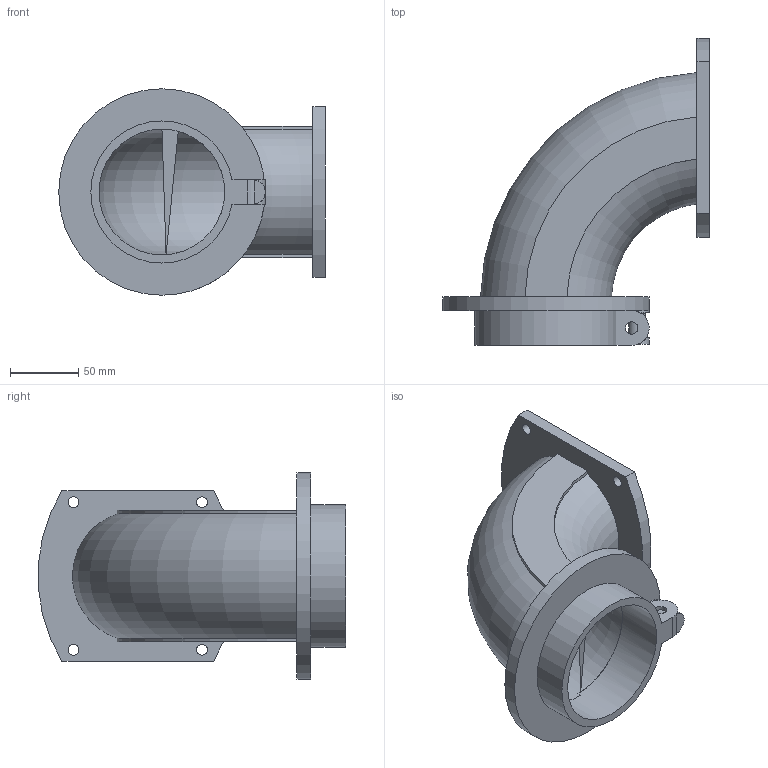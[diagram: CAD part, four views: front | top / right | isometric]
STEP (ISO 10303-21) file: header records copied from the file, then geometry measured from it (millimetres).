
FILE_DESCRIPTION( ( 'STEP AP214' ), '1' );
FILE_NAME( 'e:/temp/worker_27/temp/exporttempdir_7308_71_8IgMk/format_0/TWOC_IP55-95B.stp', '2021-04-13T15:17:10', ( 'License CC BY-ND 4.0' ), ( 'CADENAS' ), ' ', 'PARTsolutions', ' ' );
FILE_SCHEMA( ( 'AUTOMOTIVE_DESIGN { 1 0 10303 214 1 1 1 1 }' ) );
Length unit declared in the file: millimetre
Products named in the file (1): _TWOC_IP55-95B
Bounding box: 195 x 224.63 x 151 mm (x, y, z)
Surface area: 179413.5 mm2 (no closed solid volume)
Topology: 0 solids, 1 shells, 40 faces, 107 edges, 71 vertices
Faces by surface type: cylinder 20, plane 17, torus 3
Full cylindrical faces by diameter (mm): 8 x4, 9 x1, 92 x1, 151 x1
Entity records: 2031 total; most frequent: CARTESIAN_POINT 752, DIRECTION 195, ORIENTED_EDGE 178, EDGE_CURVE 89, AXIS2_PLACEMENT_3D 81, EDGE_LOOP 65, VERTEX_POINT 64, FACE_OUTER_BOUND 48
